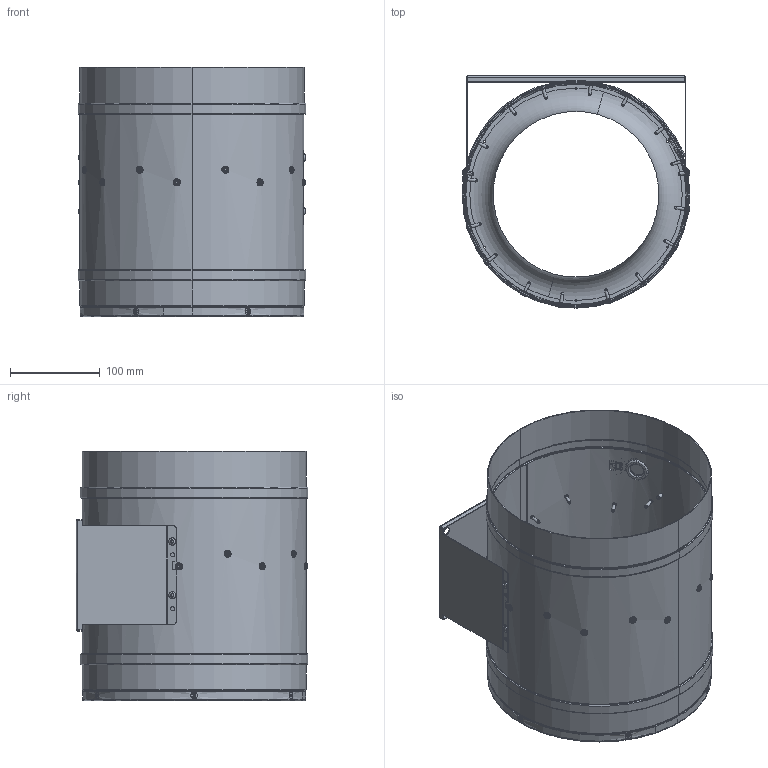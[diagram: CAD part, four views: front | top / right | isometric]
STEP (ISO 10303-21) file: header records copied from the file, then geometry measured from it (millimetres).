
FILE_DESCRIPTION (( 'STEP AP203' ), '1' );
FILE_NAME ('118980-01_EL250D201.STEP', '2013-10-29T10:07:06', ( '' ), ( '' ), 'SwSTEP 2.0', 'SolidWorks 2012', '' );
FILE_SCHEMA (( 'CONFIG_CONTROL_DESIGN' ));
Length unit declared in the file: millimetre
Products named in the file (1): 118980-01_EL250D201
Bounding box: 254 x 258.8 x 278 mm (x, y, z)
Surface area: 568653.6 mm2 (no closed solid volume)
Topology: 0 solids, 71 shells, 614 faces, 2001 edges, 1397 vertices
Faces by surface type: cylinder 305, plane 137, cone 98, torus 62, bspline 12
Entity records: 25745 total; most frequent: CARTESIAN_POINT 8158, DIRECTION 3934, ORIENTED_EDGE 3124, EDGE_CURVE 2001, AXIS2_PLACEMENT_3D 1654, VERTEX_POINT 1397, CIRCLE 1051, EDGE_LOOP 745
